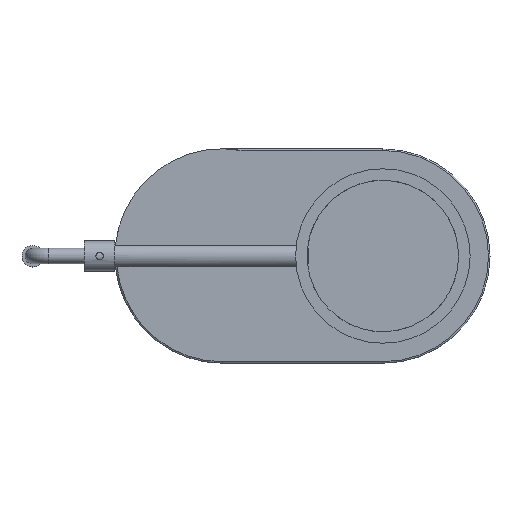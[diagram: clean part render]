
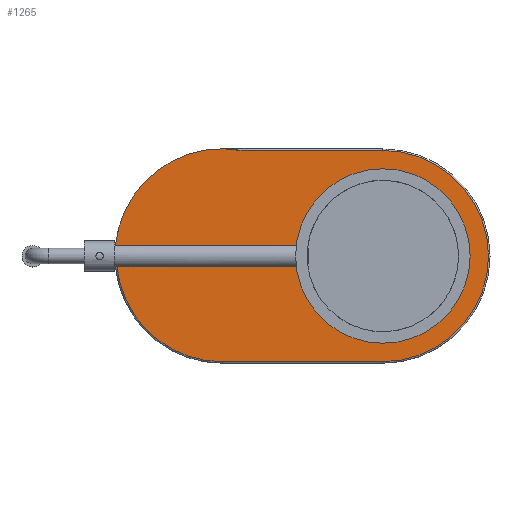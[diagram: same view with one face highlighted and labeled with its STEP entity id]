
A CAD part, top view. The second image highlights one B-rep face of the part: STEP entity #1265.
In plain terms, the highlighted planar face has unit normal (0, 0, 1).
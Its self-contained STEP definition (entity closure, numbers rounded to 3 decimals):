
#387=CARTESIAN_POINT('',(0.,-69.0,3.));
#388=VERTEX_POINT('',#387);
#396=CARTESIAN_POINT('',(-105.0,-69.,3.));
#397=VERTEX_POINT('',#396);
#398=CARTESIAN_POINT('',(0.,-69.0,3.));
#399=DIRECTION('',(-1.0,0.0,0.0));
#400=VECTOR('',#399,105.);
#401=LINE('',#398,#400);
#402=EDGE_CURVE('',#388,#397,#401,.T.);
#420=CARTESIAN_POINT('',(0.,69.0,3.));
#421=VERTEX_POINT('',#420);
#429=CARTESIAN_POINT('',(0.0,0.0,3.));
#430=DIRECTION('',(0.0,0.0,-1.0));
#431=DIRECTION('',(1.0,0.0,0.0));
#432=AXIS2_PLACEMENT_3D('',#429,#430,#431);
#433=CIRCLE('',#432,69.0);
#434=EDGE_CURVE('',#421,#388,#433,.T.);
#446=CARTESIAN_POINT('',(-173.701,-6.874,3.));
#447=VERTEX_POINT('',#446);
#465=CARTESIAN_POINT('',(-105.0,0.048,3.));
#466=DIRECTION('',(0.0,0.0,-1.0));
#467=DIRECTION('',(-0.671,-0.741,0.0));
#468=AXIS2_PLACEMENT_3D('',#465,#466,#467);
#469=CIRCLE('',#468,69.048);
#470=EDGE_CURVE('',#397,#447,#469,.T.);
#480=CARTESIAN_POINT('',(-92.653,69.,3.));
#481=VERTEX_POINT('',#480);
#503=CARTESIAN_POINT('',(-92.653,69.,3.));
#504=DIRECTION('',(1.0,0.0,0.0));
#505=VECTOR('',#504,92.653);
#506=LINE('',#503,#505);
#507=EDGE_CURVE('',#481,#421,#506,.T.);
#1168=CARTESIAN_POINT('',(-50.535,-6.874,3.0));
#1169=VERTEX_POINT('',#1168);
#1170=CARTESIAN_POINT('',(-50.535,-6.874,3.));
#1171=DIRECTION('',(-1.0,0.0,0.0));
#1172=VECTOR('',#1171,123.166);
#1173=LINE('',#1170,#1172);
#1174=EDGE_CURVE('',#1169,#447,#1173,.T.);
#1176=CARTESIAN_POINT('',(-50.535,6.874,3.0));
#1177=VERTEX_POINT('',#1176);
#1195=CARTESIAN_POINT('',(-174.715,6.874,3.));
#1196=VERTEX_POINT('',#1195);
#1197=CARTESIAN_POINT('',(-174.715,6.874,3.));
#1198=DIRECTION('',(1.0,0.0,0.0));
#1199=VECTOR('',#1198,124.18);
#1200=LINE('',#1197,#1199);
#1201=EDGE_CURVE('',#1196,#1177,#1200,.T.);
#1238=CARTESIAN_POINT('',(-52.471,-0.024,3.));
#1239=DIRECTION('',(0.0,0.0,1.0));
#1240=DIRECTION('',(1.0,0.0,0.0));
#1241=AXIS2_PLACEMENT_3D('',#1238,#1239,#1240);
#1242=PLANE('',#1241);
#1243=CARTESIAN_POINT('',(-105.0,0.048,3.));
#1244=DIRECTION('',(0.0,0.0,-1.0));
#1245=DIRECTION('',(-0.053,-0.999,0.0));
#1246=AXIS2_PLACEMENT_3D('',#1243,#1244,#1245);
#1247=CIRCLE('',#1246,70.048);
#1248=EDGE_CURVE('',#1196,#481,#1247,.T.);
#1249=ORIENTED_EDGE('',*,*,#1248,.F.);
#1250=ORIENTED_EDGE('',*,*,#1201,.T.);
#1251=CARTESIAN_POINT('',(0.0,0.0,3.));
#1252=DIRECTION('',(0.0,0.0,1.0));
#1253=DIRECTION('',(-1.0,0.0,0.0));
#1254=AXIS2_PLACEMENT_3D('',#1251,#1252,#1253);
#1255=CIRCLE('',#1254,51.);
#1256=EDGE_CURVE('',#1169,#1177,#1255,.T.);
#1257=ORIENTED_EDGE('',*,*,#1256,.F.);
#1258=ORIENTED_EDGE('',*,*,#1174,.T.);
#1259=ORIENTED_EDGE('',*,*,#470,.F.);
#1260=ORIENTED_EDGE('',*,*,#402,.F.);
#1261=ORIENTED_EDGE('',*,*,#434,.F.);
#1262=ORIENTED_EDGE('',*,*,#507,.F.);
#1263=EDGE_LOOP('',(#1249,#1250,#1257,#1258,#1259,#1260,#1261,#1262));
#1264=FACE_OUTER_BOUND('',#1263,.T.);
#1265=ADVANCED_FACE('',(#1264),#1242,.T.);
